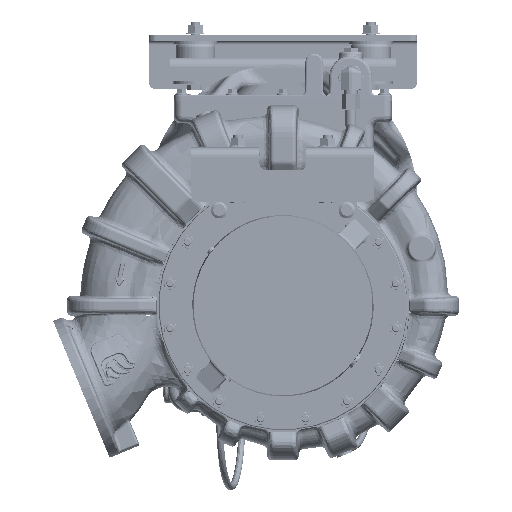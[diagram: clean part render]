
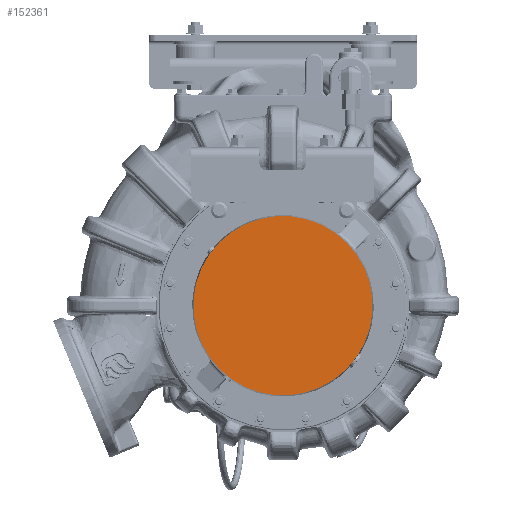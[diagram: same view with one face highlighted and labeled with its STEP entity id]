
A CAD part, top view. The second image highlights one B-rep face of the part: STEP entity #152361.
In plain terms, the highlighted planar face has unit normal (0, 0, 1).
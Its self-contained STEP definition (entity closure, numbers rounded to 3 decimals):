
#151036=CARTESIAN_POINT('',(0.,-0.001,13.66));
#151037=DIRECTION('',(0.,0.,1.));
#151038=DIRECTION('',(0.707,0.707,0.));
#151039=AXIS2_PLACEMENT_3D('',#151036,#151037,#151038);
#151150=CARTESIAN_POINT('',(0.,-0.001,13.66));
#151151=DIRECTION('',(0.,0.,1.));
#151152=DIRECTION('',(-0.707,-0.707,0.));
#151153=AXIS2_PLACEMENT_3D('',#151150,#151151,#151152);
#152162=CARTESIAN_POINT('',(4.07,4.069,13.66));
#152163=CARTESIAN_POINT('',(-4.07,-4.071,13.66));
#152164=VERTEX_POINT('',#152162);
#152165=VERTEX_POINT('',#152163);
#152352=CARTESIAN_POINT('',(0.,-0.001,13.66));
#152353=DIRECTION('',(0.,0.,-1.));
#152354=DIRECTION('',(-0.707,0.707,0.));
#152355=AXIS2_PLACEMENT_3D('',#152352,#152353,#152354);
#152356=PLANE('',#152355);
#152357=ORIENTED_EDGE('',*,*,#152277,.F.);
#152358=ORIENTED_EDGE('',*,*,#152331,.F.);
#152359=EDGE_LOOP('',(#152357,#152358));
#152360=FACE_OUTER_BOUND('',#152359,.F.);
#152361=ADVANCED_FACE('',(#152360),#152356,.F.);
#151040=CIRCLE('',#151039,5.756);
#151154=CIRCLE('',#151153,5.756);
#152277=EDGE_CURVE('',#152164,#152165,#151040,.T.);
#152331=EDGE_CURVE('',#152165,#152164,#151154,.T.);
